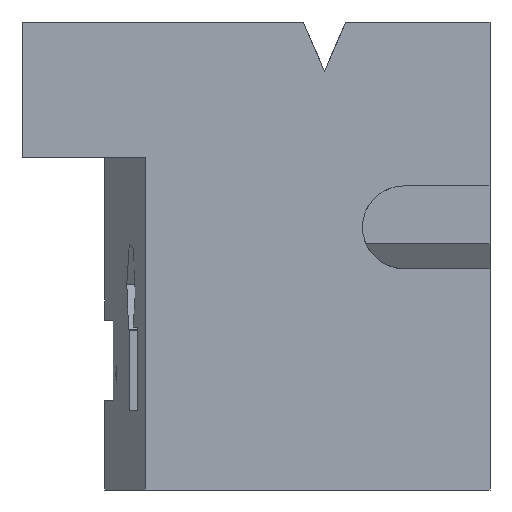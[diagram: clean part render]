
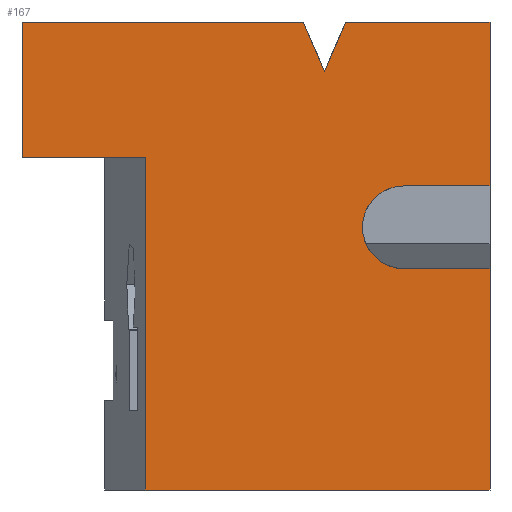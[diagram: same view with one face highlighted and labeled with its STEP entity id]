
A CAD part, left-side view. The second image highlights one B-rep face of the part: STEP entity #167.
In plain terms, the highlighted planar face has unit normal (-1, 0, 0).
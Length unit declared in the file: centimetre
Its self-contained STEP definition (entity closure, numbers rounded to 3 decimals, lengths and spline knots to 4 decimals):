
#4 = DIRECTION ( 'NONE',  ( 0., -1., 0. ) ) ;
#10 = CARTESIAN_POINT ( 'NONE',  ( 0., 184.1592, 561.3414 ) ) ;
#17 = ORIENTED_EDGE ( 'NONE', *, *, #991, .F. ) ;
#40 = ORIENTED_EDGE ( 'NONE', *, *, #1225, .F. ) ;
#45 = VECTOR ( 'NONE', #508, 100. ) ;
#57 = ORIENTED_EDGE ( 'NONE', *, *, #1470, .F. ) ;
#62 = CARTESIAN_POINT ( 'NONE',  ( 0., 0., 1000. ) ) ;
#70 = DIRECTION ( 'NONE',  ( 1., 0., 0. ) ) ;
#101 = ORIENTED_EDGE ( 'NONE', *, *, #597, .T. ) ;
#110 = EDGE_CURVE ( 'NONE', #439, #1319, #183, .T. ) ;
#125 = VECTOR ( 'NONE', #1620, 100. ) ;
#140 = DIRECTION ( 'NONE',  ( 0., -1., 0. ) ) ;
#142 = LINE ( 'NONE', #1015, #1530 ) ;
#156 = DIRECTION ( 'NONE',  ( 0., -1., 0. ) ) ;
#163 = ORIENTED_EDGE ( 'NONE', *, *, #1272, .T. ) ;
#167 = ADVANCED_FACE ( 'NONE', ( #749 ), #1262, .F. ) ;
#183 = LINE ( 'NONE', #1216, #647 ) ;
#184 = LINE ( 'NONE', #1099, #1203 ) ;
#198 = VERTEX_POINT ( 'NONE', #1035 ) ;
#212 = CARTESIAN_POINT ( 'NONE',  ( 0., 737.1074, 0. ) ) ;
#221 = VERTEX_POINT ( 'NONE', #773 ) ;
#225 = LINE ( 'NONE', #1108, #125 ) ;
#236 = VECTOR ( 'NONE', #392, 100. ) ;
#290 = VECTOR ( 'NONE', #1493, 100. ) ;
#292 = VERTEX_POINT ( 'NONE', #1515 ) ;
#303 = ORIENTED_EDGE ( 'NONE', *, *, #738, .T. ) ;
#315 = VECTOR ( 'NONE', #1630, 100. ) ;
#346 = LINE ( 'NONE', #1236, #290 ) ;
#371 = CIRCLE ( 'NONE', #482, 88.3687 ) ;
#375 = LINE ( 'NONE', #1284, #1317 ) ;
#378 = CARTESIAN_POINT ( 'NONE',  ( 0., 0., 1000. ) ) ;
#382 = LINE ( 'NONE', #1274, #45 ) ;
#392 = DIRECTION ( 'NONE',  ( 0., 0., -1. ) ) ;
#409 = ORIENTED_EDGE ( 'NONE', *, *, #1066, .F. ) ;
#439 = VERTEX_POINT ( 'NONE', #1560 ) ;
#446 = CARTESIAN_POINT ( 'NONE',  ( 0., 308.4677, 1000. ) ) ;
#461 = ORIENTED_EDGE ( 'NONE', *, *, #1602, .F. ) ;
#469 = ORIENTED_EDGE ( 'NONE', *, *, #110, .F. ) ;
#482 = AXIS2_PLACEMENT_3D ( 'NONE', #10, #1266, #1142 ) ;
#490 = CARTESIAN_POINT ( 'NONE',  ( 0., 0., 1000. ) ) ;
#508 = DIRECTION ( 'NONE',  ( 0., 1., 0. ) ) ;
#591 = DIRECTION ( 'NONE',  ( 0., 0., -1. ) ) ;
#597 = EDGE_CURVE ( 'NONE', #439, #1376, #184, .T. ) ;
#606 = LINE ( 'NONE', #1113, #1144 ) ;
#629 = VERTEX_POINT ( 'NONE', #212 ) ;
#647 = VECTOR ( 'NONE', #140, 100. ) ;
#656 = DIRECTION ( 'NONE',  ( 0., -1., 0. ) ) ;
#704 = DIRECTION ( 'NONE',  ( 0., 0., -1. ) ) ;
#712 = ORIENTED_EDGE ( 'NONE', *, *, #1521, .T. ) ;
#718 = CARTESIAN_POINT ( 'NONE',  ( 0., 1000., 1000. ) ) ;
#738 = EDGE_CURVE ( 'NONE', #1392, #1590, #606, .T. ) ;
#749 = FACE_OUTER_BOUND ( 'NONE', #1128, .T. ) ;
#773 = CARTESIAN_POINT ( 'NONE',  ( 0., 184.1592, 649.71 ) ) ;
#801 = LINE ( 'NONE', #1424, #1504 ) ;
#803 = EDGE_CURVE ( 'NONE', #629, #1056, #801, .T. ) ;
#856 = VERTEX_POINT ( 'NONE', #378 ) ;
#886 = LINE ( 'NONE', #1034, #236 ) ;
#989 = DIRECTION ( 'NONE',  ( 0., 0.395, -0.919 ) ) ;
#991 = EDGE_CURVE ( 'NONE', #856, #1001, #1346, .T. ) ;
#1001 = VERTEX_POINT ( 'NONE', #1589 ) ;
#1015 = CARTESIAN_POINT ( 'NONE',  ( 0., 0., 472.9727 ) ) ;
#1024 = CARTESIAN_POINT ( 'NONE',  ( 0., 353.6232, 895.0856 ) ) ;
#1034 = CARTESIAN_POINT ( 'NONE',  ( 0., 737.1074, 710.9513 ) ) ;
#1035 = CARTESIAN_POINT ( 'NONE',  ( 0., 184.1592, 472.9727 ) ) ;
#1056 = VERTEX_POINT ( 'NONE', #1494 ) ;
#1066 = EDGE_CURVE ( 'NONE', #1435, #1056, #1645, .T. ) ;
#1074 = AXIS2_PLACEMENT_3D ( 'NONE', #718, #70, #591 ) ;
#1092 = VECTOR ( 'NONE', #1204, 100. ) ;
#1099 = CARTESIAN_POINT ( 'NONE',  ( 0., 1000., 1000. ) ) ;
#1108 = CARTESIAN_POINT ( 'NONE',  ( 0., 353.6232, 895.0856 ) ) ;
#1113 = CARTESIAN_POINT ( 'NONE',  ( 0., 308.4677, 1000. ) ) ;
#1128 = EDGE_LOOP ( 'NONE', ( #409, #1134, #461, #1524, #17, #40, #303, #712, #469, #101, #57, #163, #1594 ) ) ;
#1134 = ORIENTED_EDGE ( 'NONE', *, *, #1202, .F. ) ;
#1142 = DIRECTION ( 'NONE',  ( 0., 0., -1. ) ) ;
#1144 = VECTOR ( 'NONE', #989, 100. ) ;
#1202 = EDGE_CURVE ( 'NONE', #198, #1435, #142, .T. ) ;
#1203 = VECTOR ( 'NONE', #704, 100. ) ;
#1204 = DIRECTION ( 'NONE',  ( 0., 0., -1. ) ) ;
#1216 = CARTESIAN_POINT ( 'NONE',  ( 0., 1000., 1000. ) ) ;
#1220 = CARTESIAN_POINT ( 'NONE',  ( 0., 398.7787, 1000. ) ) ;
#1225 = EDGE_CURVE ( 'NONE', #1392, #856, #375, .T. ) ;
#1236 = CARTESIAN_POINT ( 'NONE',  ( 0., 737.1074, 710.9513 ) ) ;
#1242 = CARTESIAN_POINT ( 'NONE',  ( 0., 0., 472.9727 ) ) ;
#1262 = PLANE ( 'NONE',  #1074 ) ;
#1266 = DIRECTION ( 'NONE',  ( -1., 0., 0. ) ) ;
#1272 = EDGE_CURVE ( 'NONE', #292, #629, #886, .T. ) ;
#1274 = CARTESIAN_POINT ( 'NONE',  ( 0., 184.1592, 649.71 ) ) ;
#1284 = CARTESIAN_POINT ( 'NONE',  ( 0., 1000., 1000. ) ) ;
#1317 = VECTOR ( 'NONE', #656, 100. ) ;
#1319 = VERTEX_POINT ( 'NONE', #1220 ) ;
#1346 = LINE ( 'NONE', #62, #1092 ) ;
#1376 = VERTEX_POINT ( 'NONE', #1595 ) ;
#1392 = VERTEX_POINT ( 'NONE', #446 ) ;
#1424 = CARTESIAN_POINT ( 'NONE',  ( 0., 1000., 0. ) ) ;
#1435 = VERTEX_POINT ( 'NONE', #1242 ) ;
#1470 = EDGE_CURVE ( 'NONE', #292, #1376, #346, .T. ) ;
#1493 = DIRECTION ( 'NONE',  ( 0., 1., 0. ) ) ;
#1494 = CARTESIAN_POINT ( 'NONE',  ( 0., 0., 0. ) ) ;
#1504 = VECTOR ( 'NONE', #156, 100. ) ;
#1515 = CARTESIAN_POINT ( 'NONE',  ( 0., 737.1074, 710.9513 ) ) ;
#1521 = EDGE_CURVE ( 'NONE', #1590, #1319, #225, .T. ) ;
#1524 = ORIENTED_EDGE ( 'NONE', *, *, #1574, .F. ) ;
#1530 = VECTOR ( 'NONE', #4, 100. ) ;
#1560 = CARTESIAN_POINT ( 'NONE',  ( 0., 1000., 1000. ) ) ;
#1574 = EDGE_CURVE ( 'NONE', #1001, #221, #382, .T. ) ;
#1589 = CARTESIAN_POINT ( 'NONE',  ( 0., 0., 649.71 ) ) ;
#1590 = VERTEX_POINT ( 'NONE', #1024 ) ;
#1594 = ORIENTED_EDGE ( 'NONE', *, *, #803, .T. ) ;
#1595 = CARTESIAN_POINT ( 'NONE',  ( 0., 1000., 710.9513 ) ) ;
#1602 = EDGE_CURVE ( 'NONE', #221, #198, #371, .T. ) ;
#1620 = DIRECTION ( 'NONE',  ( 0., 0.395, 0.919 ) ) ;
#1630 = DIRECTION ( 'NONE',  ( 0., 0., -1. ) ) ;
#1645 = LINE ( 'NONE', #490, #315 ) ;
